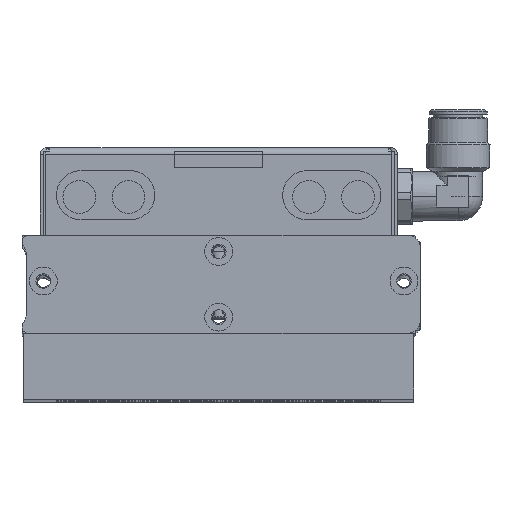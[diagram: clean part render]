
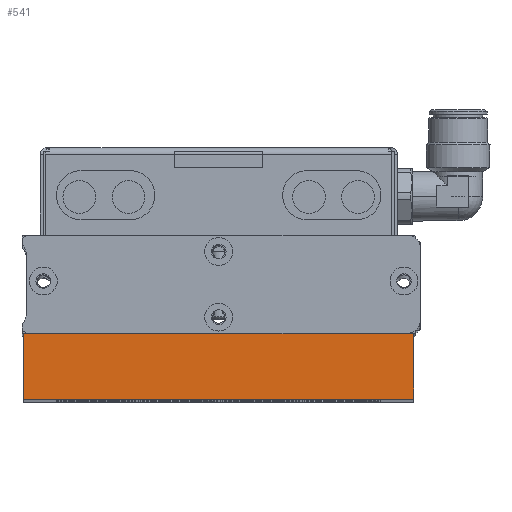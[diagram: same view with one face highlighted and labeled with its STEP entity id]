
A CAD part, top view. The second image highlights one B-rep face of the part: STEP entity #541.
In plain terms, the highlighted planar face has unit normal (0, 0, 1).
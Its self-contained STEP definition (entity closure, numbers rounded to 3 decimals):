
#541 = ADVANCED_FACE ( 'NONE', ( #35096 ), #27422, .F. ) ;
#1508 = VECTOR ( 'NONE', #30541, 1000. ) ;
#3614 = CARTESIAN_POINT ( 'NONE',  ( 36.4, -51.3, 297. ) ) ;
#8107 = CARTESIAN_POINT ( 'NONE',  ( -82.6, -51.3, 297. ) ) ;
#9350 = EDGE_CURVE ( 'NONE', #41153, #46927, #40059, .T. ) ;
#10164 = VECTOR ( 'NONE', #41828, 1000. ) ;
#12021 = ORIENTED_EDGE ( 'NONE', *, *, #22568, .T. ) ;
#13532 = CARTESIAN_POINT ( 'NONE',  ( -82.6, -51.3, 297. ) ) ;
#13933 = AXIS2_PLACEMENT_3D ( 'NONE', #31637, #35737, #43675 ) ;
#14486 = CARTESIAN_POINT ( 'NONE',  ( -82.6, -71.3, 297. ) ) ;
#15795 = EDGE_LOOP ( 'NONE', ( #49162, #18455, #51877, #12021 ) ) ;
#16786 = LINE ( 'NONE', #14486, #1508 ) ;
#18116 = CARTESIAN_POINT ( 'NONE',  ( 36.4, -71.3, 297. ) ) ;
#18455 = ORIENTED_EDGE ( 'NONE', *, *, #9350, .F. ) ;
#19274 = CARTESIAN_POINT ( 'NONE',  ( -82.6, -71.3, 297. ) ) ;
#22568 = EDGE_CURVE ( 'NONE', #25811, #38966, #33814, .T. ) ;
#22668 = VECTOR ( 'NONE', #28316, 1000. ) ;
#25811 = VERTEX_POINT ( 'NONE', #45345 ) ;
#27422 = PLANE ( 'NONE',  #13933 ) ;
#27725 = DIRECTION ( 'NONE',  ( 0., -1., 0. ) ) ;
#28316 = DIRECTION ( 'NONE',  ( 1., 0., 0. ) ) ;
#29289 = VECTOR ( 'NONE', #27725, 1000. ) ;
#30541 = DIRECTION ( 'NONE',  ( 1., 0., 0. ) ) ;
#31637 = CARTESIAN_POINT ( 'NONE',  ( -82.6, -51.3, 297. ) ) ;
#33462 = LINE ( 'NONE', #8107, #22668 ) ;
#33814 = LINE ( 'NONE', #13532, #10164 ) ;
#35096 = FACE_OUTER_BOUND ( 'NONE', #15795, .T. ) ;
#35737 = DIRECTION ( 'NONE',  ( 0., 0., -1. ) ) ;
#38562 = EDGE_CURVE ( 'NONE', #25811, #41153, #33462, .T. ) ;
#38826 = EDGE_CURVE ( 'NONE', #38966, #46927, #16786, .T. ) ;
#38966 = VERTEX_POINT ( 'NONE', #19274 ) ;
#40059 = LINE ( 'NONE', #52626, #29289 ) ;
#41153 = VERTEX_POINT ( 'NONE', #3614 ) ;
#41828 = DIRECTION ( 'NONE',  ( 0., -1., 0. ) ) ;
#43675 = DIRECTION ( 'NONE',  ( 0., 1., 0. ) ) ;
#45345 = CARTESIAN_POINT ( 'NONE',  ( -82.6, -51.3, 297. ) ) ;
#46927 = VERTEX_POINT ( 'NONE', #18116 ) ;
#49162 = ORIENTED_EDGE ( 'NONE', *, *, #38826, .T. ) ;
#51877 = ORIENTED_EDGE ( 'NONE', *, *, #38562, .F. ) ;
#52626 = CARTESIAN_POINT ( 'NONE',  ( 36.4, -51.3, 297. ) ) ;
